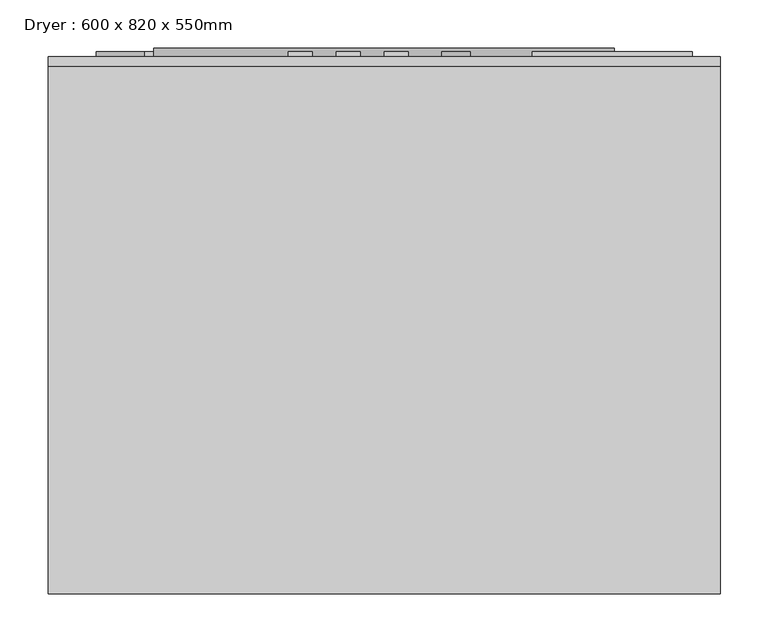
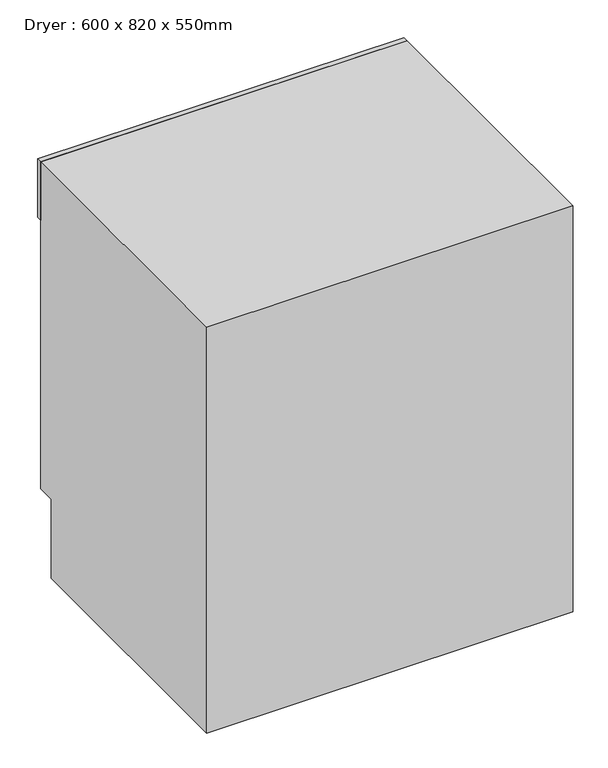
"""IFC4 building model written with IfcOpenShell, lengths in millimetres: proxy geometry, Dryer : 600 x 820 x 550mm."""

from ifc_helpers import new_model, si_unit, point, frame, frame_2d, origin, place, context, project, spatial, polyline, circle_curve, trimmed, segment, composite_curve, outline, extrude, source, transform, mapped, element, save
from ifc_brep_helpers import plane_surface, revolved_surface, advanced_brep


def dryer_600_x_820_x_550mm_fe8a08c6(model_context):
    return source(origin(), model_context, "Body", "SolidModel", [
        extrude(outline(polyline([(3.1591715, 690.0), (169.995263, 690.0), (169.995263, 685.0), (3.1591715, 685.0), (3.1591715, 690.0)])), frame((0.0, 0.0, 736.0845617), z_axis=(0.0, 0.0, 1.0), x_axis=(1.0, 0.0, 0.0)), (0.0, 0.0, 1.0), 25.0),
        extrude(outline(polyline([(-251.3135585, 690.0), (-226.3135585, 690.0), (-226.3135585, 685.0), (-251.3135585, 685.0), (-251.3135585, 690.0)])), frame((0.0, 0.0, 741.0845617), z_axis=(0.0, 0.0, 1.0), x_axis=(1.0, 0.0, 0.0)), (0.0, 0.0, 1.0), 40.0),
        extrude(outline(composite_curve([segment(trimmed(circle_curve(frame_2d((761.0845617, -426.3135585)), 25.0), [point((761.0845617, -451.3135585))], [point((761.0845617, -401.3135585))], False, "CARTESIAN"), True, "CONTINUOUS"), segment(trimmed(circle_curve(frame_2d((761.0845617, -426.3135585)), 25.0), [point((761.0845617, -401.3135585))], [point((761.0845617, -451.3135585))], False, "CARTESIAN"), True, "CONTINUOUS")], self_intersect=False)), frame((0.0, 685.0, 0.0), z_axis=(0.0, 1.0, 0.0), x_axis=(0.0, 0.0, 1.0)), (0.0, 0.0, 1.0), 5.0),
        extrude(outline(composite_curve([segment(trimmed(circle_curve(frame_2d((761.0845617, -76.3135585)), 15.0), [point((761.0845617, -91.3135585))], [point((761.0845617, -61.3135585))], False, "CARTESIAN"), True, "CONTINUOUS"), segment(trimmed(circle_curve(frame_2d((761.0845617, -76.3135585)), 15.0), [point((761.0845617, -61.3135585))], [point((761.0845617, -91.3135585))], False, "CARTESIAN"), True, "CONTINUOUS")], self_intersect=False)), frame((0.0, 685.0, 0.0), z_axis=(0.0, 1.0, 0.0), x_axis=(0.0, 0.0, 1.0)), (0.0, 0.0, 1.0), 5.0),
        extrude(outline(polyline([(-442.6202937, 690.0), (-373.3523296, 690.0), (-373.3523296, 685.0), (-442.6202937, 685.0), (-442.6202937, 690.0)])), frame((0.0, 0.0, 209.0795094), z_axis=(0.0, 0.0, 1.0), x_axis=(1.0, 0.0, 0.0)), (0.0, 0.0, 1.0), 10.0),
        extrude(outline(polyline([(-151.3135585, 690.0), (-126.3135585, 690.0), (-126.3135585, 685.0), (-151.3135585, 685.0), (-151.3135585, 690.0)])), frame((0.0, 0.0, 741.0845617), z_axis=(0.0, 0.0, 1.0), x_axis=(1.0, 0.0, 0.0)), (0.0, 0.0, 1.0), 40.0),
        extrude(outline(polyline([(-201.3135585, 690.0), (-176.3135585, 690.0), (-176.3135585, 685.0), (-201.3135585, 685.0), (-201.3135585, 690.0)])), frame((0.0, 0.0, 741.0845617), z_axis=(0.0, 0.0, 1.0), x_axis=(1.0, 0.0, 0.0)), (0.0, 0.0, 1.0), 40.0),
        extrude(outline(polyline([(-501.3135585, 685.0), (198.6864415, 685.0), (198.6864415, 675.0), (-501.3135585, 675.0), (-501.3135585, 685.0)])), frame((0.0, 0.0, 702.1691233), z_axis=(0.0, 0.0, 1.0), x_axis=(1.0, 0.0, 0.0)), (0.0, 0.0, 1.0), 117.8308767),
        extrude(outline(composite_curve([segment(trimmed(circle_curve(frame_2d((214.7704069, -407.8865689)), 35.0), [point((214.7704069, -442.8865689))], [point((214.7704069, -372.8865689))], False, "CARTESIAN"), True, "CONTINUOUS"), segment(trimmed(circle_curve(frame_2d((214.7704069, -407.8865689)), 35.0), [point((214.7704069, -372.8865689))], [point((214.7704069, -442.8865689))], False, "CARTESIAN"), True, "CONTINUOUS")], self_intersect=False)), frame((0.0, 675.0, 0.0), z_axis=(0.0, 1.0, 0.0), x_axis=(0.0, 0.0, 1.0)), (0.0, 0.0, 1.0), 10.0),
        extrude(outline(composite_curve([segment(trimmed(circle_curve(frame_2d((440.0, -151.3135585)), 240.0), [point((440.0, -391.3135585))], [point((440.0, 88.6864415))], False, "CARTESIAN"), True, "CONTINUOUS"), segment(trimmed(circle_curve(frame_2d((440.0, -151.3135585)), 240.0), [point((440.0, 88.6864415))], [point((440.0, -391.3135585))], False, "CARTESIAN"), True, "CONTINUOUS")], self_intersect=False), holes=[composite_curve([segment(trimmed(circle_curve(frame_2d((440.0, -151.3135585)), 190.0), [point((440.0, -341.3135585))], [point((440.0, 38.6864415))], True, "CARTESIAN"), True, "CONTINUOUS"), segment(trimmed(circle_curve(frame_2d((440.0, -151.3135585)), 190.0), [point((440.0, 38.6864415))], [point((440.0, -341.3135585))], True, "CARTESIAN"), True, "CONTINUOUS")], self_intersect=False)]), frame((0.0, 675.0, 0.0), z_axis=(0.0, 1.0, 0.0), x_axis=(0.0, 0.0, 1.0)), (0.0, 0.0, 1.0), 19.0),
        advanced_brep(
        [(-501.3135585, 125.0, 0.0), (-501.3135585, 125.0, 820.0), (-501.3135585, 675.0, 820.0), (-501.3135585, 675.0, 160.0), (-501.3135585, 640.0, 160.0), (-501.3135585, 640.0, 0.0), (198.6864415, 125.0, 0.0), (198.6864415, 640.0, 0.0), (198.6864415, 640.0, 160.0), (198.6864415, 675.0, 160.0), (198.6864415, 675.0, 820.0), (198.6864415, 125.0, 820.0), (38.6864415, 675.0, 440.0), (-341.3135585, 675.0, 440.0), (38.6864415, 425.0, 440.0), (-341.3135585, 425.0, 440.0)],
        [
            (0, 1),
            (1, 2),
            (2, 3),
            (3, 4),
            (4, 5),
            (5, 0),
            (6, 7),
            (7, 8),
            (8, 9),
            (9, 10),
            (10, 11),
            (11, 6),
            (0, 6),
            (11, 1),
            (10, 2),
            (9, 3),
            (12, 13, circle_curve(frame((-151.3135585, 675.0, 440.0), z_axis=(0.0, -1.0, 0.0), x_axis=(-1.0, 0.0, 0.0)), 190.0)),
            (13, 12, circle_curve(frame((-151.3135585, 675.0, 440.0), z_axis=(0.0, -1.0, 0.0), x_axis=(-1.0, 0.0, 0.0)), 190.0)),
            (8, 4),
            (7, 5),
            (14, 15, circle_curve(frame((-151.3135585, 425.0, 440.0), z_axis=(0.0, 1.0, 0.0), x_axis=(-1.0, 0.0, 0.0)), 190.0)),
            (15, 14, circle_curve(frame((-151.3135585, 425.0, 440.0), z_axis=(0.0, 1.0, 0.0), x_axis=(-1.0, 0.0, 0.0)), 190.0)),
            (15, 13),
            (12, 14),
        ],
        [
            plane_surface(frame((-501.3135585, 125.0, 820.0), z_axis=(-1.0, 0.0, 0.0), x_axis=(0.0, 0.0, 1.0))),
            plane_surface(frame((198.6864415, 125.0, 820.0), z_axis=(1.0, 0.0, 0.0), x_axis=(0.0, 0.0, -1.0))),
            plane_surface(frame((-501.3135585, 125.0, 0.0), z_axis=(0.0, -1.0, 0.0), x_axis=(1.0, 0.0, 0.0))),
            plane_surface(frame((-501.3135585, 125.0, 820.0), z_axis=(0.0, 0.0, 1.0), x_axis=(1.0, 0.0, 0.0))),
            plane_surface(frame((-501.3135585, 675.0, 820.0), z_axis=(0.0, 1.0, 0.0), x_axis=(1.0, 0.0, 0.0))),
            plane_surface(frame((-501.3135585, 675.0, 160.0), z_axis=(0.0, 0.0, -1.0), x_axis=(1.0, 0.0, 0.0))),
            plane_surface(frame((-501.3135585, 640.0, 160.0), z_axis=(0.0, 1.0, 0.0), x_axis=(1.0, 0.0, 0.0))),
            plane_surface(frame((-501.3135585, 640.0, 0.0), z_axis=(0.0, 0.0, -1.0), x_axis=(1.0, 0.0, 0.0))),
            plane_surface(frame((-341.3135585, 425.0, 440.0), z_axis=(0.0, 1.0, 0.0), x_axis=(0.0, 0.0, -1.0))),
            revolved_surface(polyline([(-341.3135585, 425.0, 440.0), (-341.3135585, 675.0, 440.0)]), (-151.3135585, 675.0, 440.0), (0.0, -1.0, 0.0)),
        ],
        [
            (0, [[1, 2, 3, 4, 5, 6]]),
            (1, [[7, 8, 9, 10, 11, 12]]),
            (2, [[-1, 13, -12, 14]]),
            (3, [[-2, -14, -11, 15]]),
            (4, [[-3, -15, -10, 16], [17, 18]]),
            (5, [[-4, -16, -9, 19]]),
            (6, [[-5, -19, -8, 20]]),
            (7, [[-6, -20, -7, -13]]),
            (8, [[21, 22]]),
            (9, [[-22, 23, -17, 24]]),
            (9, [[-21, -24, -18, -23]]),
        ],
    ),
    ])


if __name__ == "__main__":
    model = new_model("IFC4")
    model_context = context("Model", 3, world=origin())
    ifc_project = project(units=[si_unit("LENGTHUNIT", "METRE", prefix="MILLI")], contexts=[model_context])
    site = spatial("IfcSite", under=ifc_project)
    building = spatial("IfcBuilding", under=site)
    placement = place(None, origin())
    dryer_600_x_820_x_550mm_shape = dryer_600_x_820_x_550mm_fe8a08c6(model_context)
    element("IfcBuildingElementProxy", 1, Name="Dryer : 600 x 820 x 550mm", ObjectType="Dryer : 600 x 820 x 550mm", at=placement, inside=building, context=model_context, shape_type="MappedRepresentation", body=[
        mapped(dryer_600_x_820_x_550mm_shape, transform((0.0, 0.0, 0.0), x_axis=(1.0, 0.0, 0.0), y_axis=(0.0, 1.0, 0.0), z_axis=(0.0, 0.0, 1.0))),
    ])
    save(model, "model.ifc")
